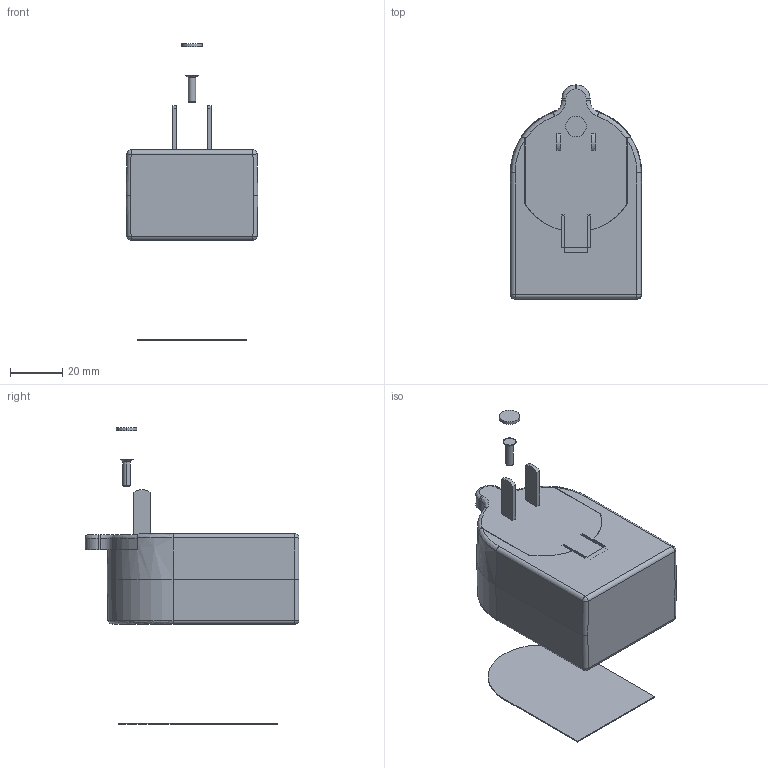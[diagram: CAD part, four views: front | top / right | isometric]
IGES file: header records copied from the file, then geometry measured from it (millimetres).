
Start section:  PTC IGES file: 17f888-en-c.igs
Global section: file name: 17f888-en-c.igs; native system: Creo Parametric by PTC Inc.; preprocessor: 2019030; author: qusrh3; organization: Unknown; date: 20200305.072202; units: inch
Bounding box: 50.55 x 82.18 x 113.97 mm (x, y, z)
Surface area: 24737.7 mm2 (no closed solid volume)
Topology: 0 solids, 0 shells, 105 faces, 510 edges, 508 vertices
Faces by surface type: revolution 55, bspline 50
